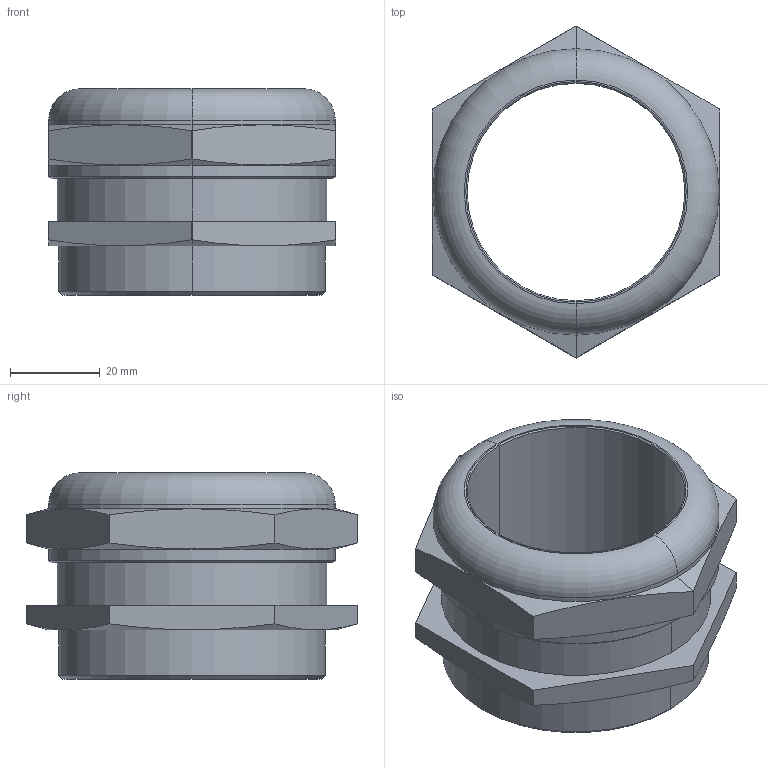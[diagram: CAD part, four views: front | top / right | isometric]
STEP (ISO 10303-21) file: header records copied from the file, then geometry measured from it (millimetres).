
FILE_DESCRIPTION (( 'STEP AP203' ), '1' );
FILE_NAME ('101048.STEP', '2006-10-04T11:30:52', ( ' ' ), ( '' ), 'SwSTEP 2.0', 'SolidWorks 2005278', '' );
FILE_SCHEMA (( 'CONFIG_CONTROL_DESIGN' ));
Length unit declared in the file: millimetre
Products named in the file (1): 101048
Bounding box: 64 x 73.9 x 46 mm (x, y, z)
Volume: 56326.8 mm3; surface area: 20027.5 mm2
Topology: 1 solids, 1 shells, 92 faces, 237 edges, 153 vertices
Faces by surface type: plane 54, cylinder 24, cone 10, torus 4
Entity records: 2981 total; most frequent: CARTESIAN_POINT 633, ORIENTED_EDGE 474, DIRECTION 470, EDGE_CURVE 237, AXIS2_PLACEMENT_3D 158, LINE 154, VECTOR 154, VERTEX_POINT 153
